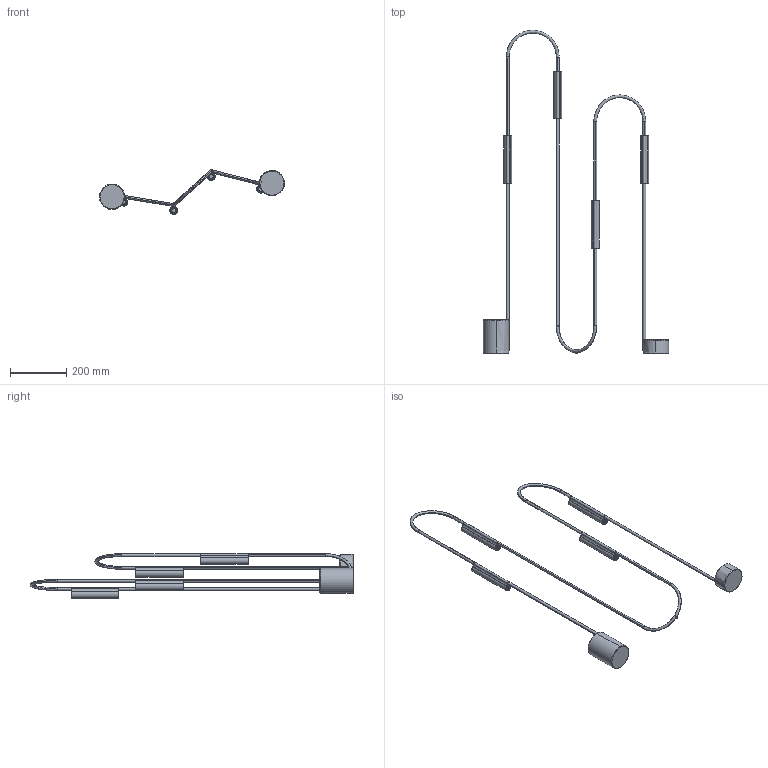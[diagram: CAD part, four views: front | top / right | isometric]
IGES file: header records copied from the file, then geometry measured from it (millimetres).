
Start section: SolidWorks IGES file using analytic representation for surfaces
Global section: file name: C:\Users\Joandita\Dropbox\Rakumba Industrial Design\PRODUCT\2 DEVELOPMENT\POP\CAD\LightWeight CAD\Pop - Floor Large.IGS; native system: SolidWorks 2017; preprocessor: SolidWorks 2017; author: Joandita; date: 240408.154701; units: millimetre
Bounding box: 658.36 x 1149.97 x 158.47 mm (x, y, z)
Surface area: 437181.7 mm2 (no closed solid volume)
Topology: 0 solids, 0 shells, 685 faces, 12769 edges, 12764 vertices
Faces by surface type: revolution 400, bspline 285
